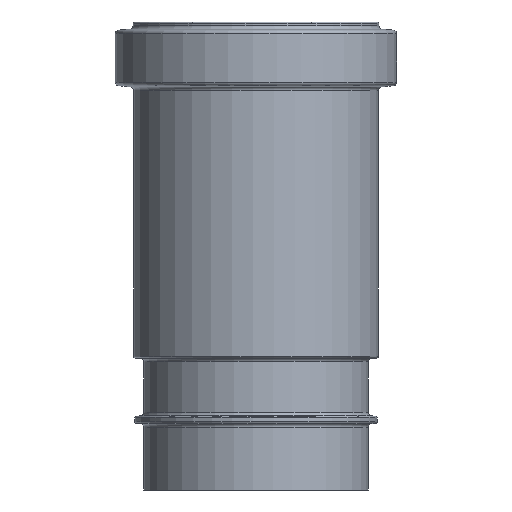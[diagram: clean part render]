
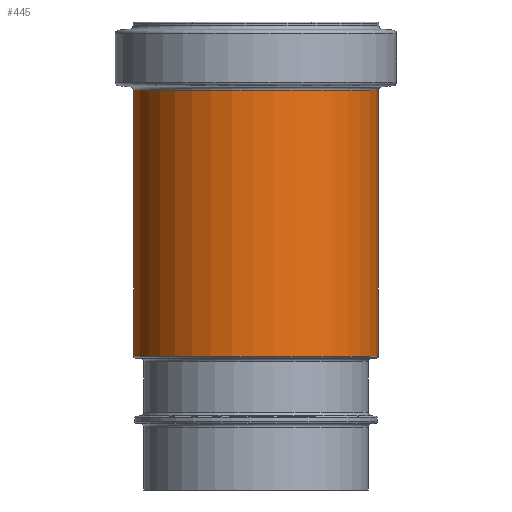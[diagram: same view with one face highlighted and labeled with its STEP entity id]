
A CAD part, front view. The second image highlights one B-rep face of the part: STEP entity #445.
In plain terms, the highlighted cylindrical face has radius 68.35 mm (diameter 136.7 mm), a full revolution.
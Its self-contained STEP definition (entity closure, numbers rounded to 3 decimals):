
#28=CYLINDRICAL_SURFACE('',#511,68.35);
#47=FACE_BOUND('',#136,.T.);
#85=FACE_OUTER_BOUND('',#135,.T.);
#135=EDGE_LOOP('',(#325));
#136=EDGE_LOOP('',(#326));
#191=CIRCLE('',#493,68.35);
#201=CIRCLE('',#512,68.35);
#229=VERTEX_POINT('',#728);
#239=VERTEX_POINT('',#757);
#267=EDGE_CURVE('',#229,#229,#191,.T.);
#277=EDGE_CURVE('',#239,#239,#201,.T.);
#325=ORIENTED_EDGE('',*,*,#277,.T.);
#326=ORIENTED_EDGE('',*,*,#267,.T.);
#445=ADVANCED_FACE('',(#85,#47),#28,.T.);
#493=AXIS2_PLACEMENT_3D('',#729,#579,#580);
#511=AXIS2_PLACEMENT_3D('',#756,#615,#616);
#512=AXIS2_PLACEMENT_3D('',#758,#617,#618);
#579=DIRECTION('center_axis',(0.,0.,-1.));
#580=DIRECTION('ref_axis',(-0.878,-0.479,0.));
#615=DIRECTION('center_axis',(0.,0.,1.));
#616=DIRECTION('ref_axis',(1.,0.,0.));
#617=DIRECTION('center_axis',(0.,0.,1.));
#618=DIRECTION('ref_axis',(-0.878,-0.479,0.));
#728=CARTESIAN_POINT('',(-59.983,-32.769,-38.199));
#729=CARTESIAN_POINT('Origin',(0.,0.,-38.199));
#756=CARTESIAN_POINT('Origin',(0.,0.,-130.735));
#757=CARTESIAN_POINT('',(59.983,32.769,-186.726));
#758=CARTESIAN_POINT('Origin',(0.,0.,
-186.726));
